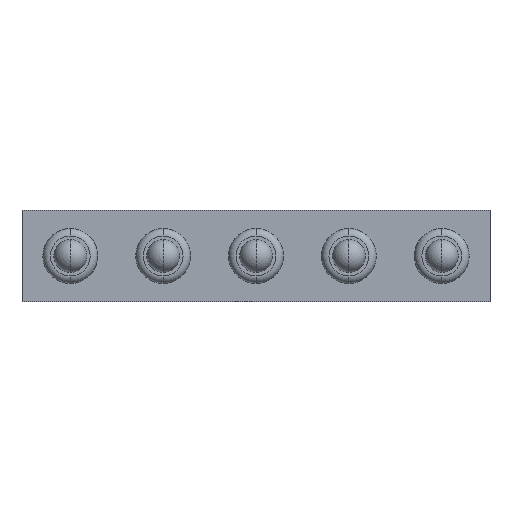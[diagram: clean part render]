
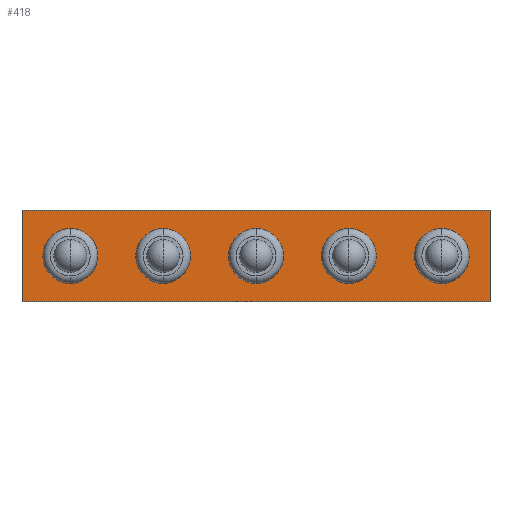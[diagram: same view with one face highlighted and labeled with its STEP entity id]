
A CAD part, left-side view. The second image highlights one B-rep face of the part: STEP entity #418.
In plain terms, the highlighted planar face has unit normal (-1, 0, 0).
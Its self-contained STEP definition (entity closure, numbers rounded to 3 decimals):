
#1=CARTESIAN_POINT('',(0.,-2.54,0.));
#2=DIRECTION('',(-1.,0.,0.));
#3=DIRECTION('',(0.,-1.,0.));
#4=AXIS2_PLACEMENT_3D('',#1,#2,#3);
#6=CARTESIAN_POINT('',(0.,-2.54,0.));
#7=DIRECTION('',(-1.,0.,0.));
#8=DIRECTION('',(0.,1.,0.));
#9=AXIS2_PLACEMENT_3D('',#6,#7,#8);
#11=CARTESIAN_POINT('',(0.,0.,0.));
#12=DIRECTION('',(-1.,0.,0.));
#13=DIRECTION('',(0.,-1.,0.));
#14=AXIS2_PLACEMENT_3D('',#11,#12,#13);
#16=CARTESIAN_POINT('',(0.,0.,0.));
#17=DIRECTION('',(-1.,0.,0.));
#18=DIRECTION('',(0.,1.,0.));
#19=AXIS2_PLACEMENT_3D('',#16,#17,#18);
#21=CARTESIAN_POINT('',(0.,2.54,0.));
#22=DIRECTION('',(-1.,0.,0.));
#23=DIRECTION('',(0.,-1.,0.));
#24=AXIS2_PLACEMENT_3D('',#21,#22,#23);
#26=CARTESIAN_POINT('',(0.,2.54,0.));
#27=DIRECTION('',(-1.,0.,0.));
#28=DIRECTION('',(0.,1.,0.));
#29=AXIS2_PLACEMENT_3D('',#26,#27,#28);
#31=CARTESIAN_POINT('',(0.,5.08,0.));
#32=DIRECTION('',(-1.,0.,0.));
#33=DIRECTION('',(0.,-1.,0.));
#34=AXIS2_PLACEMENT_3D('',#31,#32,#33);
#36=CARTESIAN_POINT('',(0.,5.08,0.));
#37=DIRECTION('',(-1.,0.,0.));
#38=DIRECTION('',(0.,1.,0.));
#39=AXIS2_PLACEMENT_3D('',#36,#37,#38);
#41=CARTESIAN_POINT('',(0.,-5.08,0.));
#42=DIRECTION('',(-1.,0.,0.));
#43=DIRECTION('',(0.,-1.,0.));
#44=AXIS2_PLACEMENT_3D('',#41,#42,#43);
#46=CARTESIAN_POINT('',(0.,-5.08,0.));
#47=DIRECTION('',(-1.,0.,0.));
#48=DIRECTION('',(0.,1.,0.));
#49=AXIS2_PLACEMENT_3D('',#46,#47,#48);
#51=DIRECTION('',(0.,0.,-1.));
#52=VECTOR('',#51,2.5);
#53=CARTESIAN_POINT('',(0.,-6.4,1.25));
#54=LINE('',#53,#52);
#55=DIRECTION('',(0.,1.,0.));
#56=VECTOR('',#55,12.8);
#57=CARTESIAN_POINT('',(0.,-6.4,-1.25));
#58=LINE('',#57,#56);
#59=DIRECTION('',(0.,0.,1.));
#60=VECTOR('',#59,2.5);
#61=CARTESIAN_POINT('',(0.,6.4,-1.25));
#62=LINE('',#61,#60);
#63=DIRECTION('',(0.,-1.,0.));
#64=VECTOR('',#63,12.8);
#65=CARTESIAN_POINT('',(0.,6.4,1.25));
#66=LINE('',#65,#64);
#285=CARTESIAN_POINT('',(0.,-3.29,0.));
#286=CARTESIAN_POINT('',(0.,-1.79,0.));
#287=VERTEX_POINT('',#285);
#288=VERTEX_POINT('',#286);
#289=CARTESIAN_POINT('',(0.,-0.75,0.));
#290=CARTESIAN_POINT('',(0.,0.75,0.));
#291=VERTEX_POINT('',#289);
#292=VERTEX_POINT('',#290);
#293=CARTESIAN_POINT('',(0.,1.79,0.));
#294=CARTESIAN_POINT('',(0.,3.29,0.));
#295=VERTEX_POINT('',#293);
#296=VERTEX_POINT('',#294);
#297=CARTESIAN_POINT('',(0.,4.33,0.));
#298=CARTESIAN_POINT('',(0.,5.83,0.));
#299=VERTEX_POINT('',#297);
#300=VERTEX_POINT('',#298);
#301=CARTESIAN_POINT('',(0.,-5.83,0.));
#302=CARTESIAN_POINT('',(0.,-4.33,0.));
#303=VERTEX_POINT('',#301);
#304=VERTEX_POINT('',#302);
#305=CARTESIAN_POINT('',(0.,-6.4,1.25));
#306=CARTESIAN_POINT('',(0.,-6.4,-1.25));
#307=VERTEX_POINT('',#305);
#308=VERTEX_POINT('',#306);
#309=CARTESIAN_POINT('',(0.,6.4,-1.25));
#310=VERTEX_POINT('',#309);
#311=CARTESIAN_POINT('',(0.,6.4,1.25));
#312=VERTEX_POINT('',#311);
#373=CARTESIAN_POINT('',(0.,0.,0.));
#374=DIRECTION('',(1.,0.,0.));
#375=DIRECTION('',(0.,-1.,0.));
#376=AXIS2_PLACEMENT_3D('',#373,#374,#375);
#377=PLANE('',#376);
#379=ORIENTED_EDGE('',*,*,#378,.T.);
#381=ORIENTED_EDGE('',*,*,#380,.T.);
#383=ORIENTED_EDGE('',*,*,#382,.T.);
#385=ORIENTED_EDGE('',*,*,#384,.T.);
#386=EDGE_LOOP('',(#379,#381,#383,#385));
#387=FACE_OUTER_BOUND('',#386,.F.);
#389=ORIENTED_EDGE('',*,*,#388,.T.);
#391=ORIENTED_EDGE('',*,*,#390,.T.);
#392=EDGE_LOOP('',(#389,#391));
#393=FACE_BOUND('',#392,.F.);
#395=ORIENTED_EDGE('',*,*,#394,.T.);
#397=ORIENTED_EDGE('',*,*,#396,.T.);
#398=EDGE_LOOP('',(#395,#397));
#399=FACE_BOUND('',#398,.F.);
#401=ORIENTED_EDGE('',*,*,#400,.T.);
#403=ORIENTED_EDGE('',*,*,#402,.T.);
#404=EDGE_LOOP('',(#401,#403));
#405=FACE_BOUND('',#404,.F.);
#407=ORIENTED_EDGE('',*,*,#406,.T.);
#409=ORIENTED_EDGE('',*,*,#408,.T.);
#410=EDGE_LOOP('',(#407,#409));
#411=FACE_BOUND('',#410,.F.);
#413=ORIENTED_EDGE('',*,*,#412,.T.);
#415=ORIENTED_EDGE('',*,*,#414,.T.);
#416=EDGE_LOOP('',(#413,#415));
#417=FACE_BOUND('',#416,.F.);
#418=ADVANCED_FACE('',(#387,#393,#399,#405,#411,#417),#377,.F.);
#5=CIRCLE('',#4,0.75);
#10=CIRCLE('',#9,0.75);
#15=CIRCLE('',#14,0.75);
#20=CIRCLE('',#19,0.75);
#25=CIRCLE('',#24,0.75);
#30=CIRCLE('',#29,0.75);
#35=CIRCLE('',#34,0.75);
#40=CIRCLE('',#39,0.75);
#45=CIRCLE('',#44,0.75);
#50=CIRCLE('',#49,0.75);
#378=EDGE_CURVE('',#307,#308,#54,.T.);
#380=EDGE_CURVE('',#308,#310,#58,.T.);
#382=EDGE_CURVE('',#310,#312,#62,.T.);
#384=EDGE_CURVE('',#312,#307,#66,.T.);
#388=EDGE_CURVE('',#291,#292,#15,.T.);
#390=EDGE_CURVE('',#292,#291,#20,.T.);
#394=EDGE_CURVE('',#295,#296,#25,.T.);
#396=EDGE_CURVE('',#296,#295,#30,.T.);
#400=EDGE_CURVE('',#299,#300,#35,.T.);
#402=EDGE_CURVE('',#300,#299,#40,.T.);
#406=EDGE_CURVE('',#303,#304,#45,.T.);
#408=EDGE_CURVE('',#304,#303,#50,.T.);
#412=EDGE_CURVE('',#287,#288,#5,.T.);
#414=EDGE_CURVE('',#288,#287,#10,.T.);
